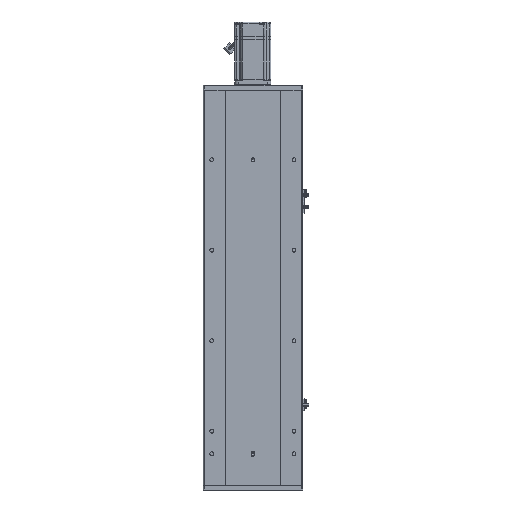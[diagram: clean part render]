
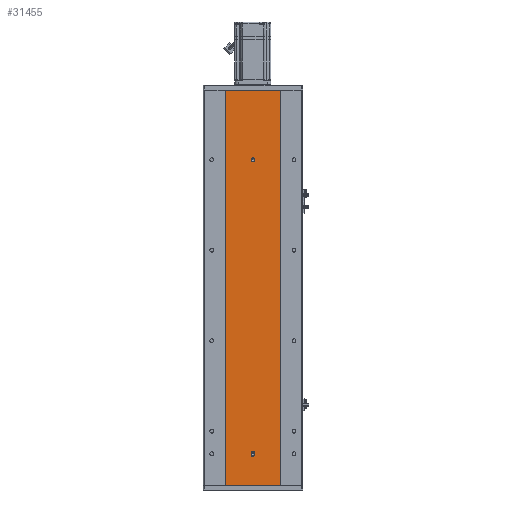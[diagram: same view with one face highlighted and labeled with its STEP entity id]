
A CAD part, front view. The second image highlights one B-rep face of the part: STEP entity #31455.
In plain terms, the highlighted planar face has unit normal (0, -1, 0).
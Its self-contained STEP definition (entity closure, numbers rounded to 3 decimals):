
#105 = VECTOR ( 'NONE', #5193, 1000. ) ;
#281 = VERTEX_POINT ( 'NONE', #16024 ) ;
#797 = DIRECTION ( 'NONE',  ( 0., -1., 0. ) ) ;
#799 = CARTESIAN_POINT ( 'NONE',  ( -60., 0., 0. ) ) ;
#1622 = EDGE_CURVE ( 'NONE', #281, #63293, #21500, .T. ) ;
#3006 = DIRECTION ( 'NONE',  ( 0., 0., -1. ) ) ;
#3552 = DIRECTION ( 'NONE',  ( 0., -1., 0. ) ) ;
#4554 = CIRCLE ( 'NONE', #16450, 4. ) ;
#4790 = DIRECTION ( 'NONE',  ( 0., 0., -1. ) ) ;
#5193 = DIRECTION ( 'NONE',  ( 0., 0., -1. ) ) ;
#6283 = EDGE_CURVE ( 'NONE', #281, #37520, #6490, .T. ) ;
#6490 = LINE ( 'NONE', #20448, #105 ) ;
#7676 = EDGE_CURVE ( 'NONE', #34087, #8968, #64105, .T. ) ;
#8111 = CARTESIAN_POINT ( 'NONE',  ( 60., 0., 874. ) ) ;
#8968 = VERTEX_POINT ( 'NONE', #53125 ) ;
#10186 = ORIENTED_EDGE ( 'NONE', *, *, #19722, .F. ) ;
#11270 = FACE_BOUND ( 'NONE', #40987, .T. ) ;
#11843 = VERTEX_POINT ( 'NONE', #42959 ) ;
#11977 = ORIENTED_EDGE ( 'NONE', *, *, #45012, .F. ) ;
#13112 = CARTESIAN_POINT ( 'NONE',  ( 0., 0., 720. ) ) ;
#13925 = EDGE_LOOP ( 'NONE', ( #40906, #35458, #57958, #25933 ) ) ;
#14191 = EDGE_CURVE ( 'NONE', #63293, #11843, #28915, .T. ) ;
#14245 = CARTESIAN_POINT ( 'NONE',  ( -4., 0., 71.5 ) ) ;
#14329 = CARTESIAN_POINT ( 'NONE',  ( -60., 0., 874. ) ) ;
#16024 = CARTESIAN_POINT ( 'NONE',  ( -60., 0., 874. ) ) ;
#16132 = DIRECTION ( 'NONE',  ( 0., -1., 0. ) ) ;
#16450 = AXIS2_PLACEMENT_3D ( 'NONE', #46853, #16132, #41482 ) ;
#17064 = EDGE_LOOP ( 'NONE', ( #29348, #10186 ) ) ;
#18302 = CARTESIAN_POINT ( 'NONE',  ( 0., 0., 724. ) ) ;
#19153 = CARTESIAN_POINT ( 'NONE',  ( 60., 0., 874. ) ) ;
#19722 = EDGE_CURVE ( 'NONE', #63039, #26471, #49439, .T. ) ;
#19934 = PLANE ( 'NONE',  #21320 ) ;
#20278 = DIRECTION ( 'NONE',  ( 0., -1., 0. ) ) ;
#20448 = CARTESIAN_POINT ( 'NONE',  ( -60., 0., 874. ) ) ;
#20513 = ORIENTED_EDGE ( 'NONE', *, *, #7676, .F. ) ;
#21050 = DIRECTION ( 'NONE',  ( 0., 0., 1. ) ) ;
#21320 = AXIS2_PLACEMENT_3D ( 'NONE', #14329, #30458, #55790 ) ;
#21369 = AXIS2_PLACEMENT_3D ( 'NONE', #65234, #3552, #34712 ) ;
#21500 = LINE ( 'NONE', #46241, #22261 ) ;
#21951 = DIRECTION ( 'NONE',  ( 0., 0., -1. ) ) ;
#22261 = VECTOR ( 'NONE', #25641, 1000. ) ;
#23217 = CIRCLE ( 'NONE', #31408, 4. ) ;
#25641 = DIRECTION ( 'NONE',  ( 1., 0., 0. ) ) ;
#25933 = ORIENTED_EDGE ( 'NONE', *, *, #6283, .T. ) ;
#26471 = VERTEX_POINT ( 'NONE', #62092 ) ;
#26524 = FACE_BOUND ( 'NONE', #17064, .T. ) ;
#26970 = EDGE_CURVE ( 'NONE', #37520, #11843, #53517, .T. ) ;
#27231 = DIRECTION ( 'NONE',  ( 1., 0., 0. ) ) ;
#27347 = FACE_OUTER_BOUND ( 'NONE', #13925, .T. ) ;
#28818 = CARTESIAN_POINT ( 'NONE',  ( -4., 0., 68.5 ) ) ;
#28915 = LINE ( 'NONE', #8111, #57788 ) ;
#29348 = ORIENTED_EDGE ( 'NONE', *, *, #53563, .F. ) ;
#30458 = DIRECTION ( 'NONE',  ( 0., 1., 0. ) ) ;
#31408 = AXIS2_PLACEMENT_3D ( 'NONE', #65596, #797, #31504 ) ;
#31455 = ADVANCED_FACE ( 'NONE', ( #26524, #11270, #27347 ), #19934, .F. ) ;
#31504 = DIRECTION ( 'NONE',  ( 0., 0., -1. ) ) ;
#33662 = DIRECTION ( 'NONE',  ( 0., 0., -1. ) ) ;
#33714 = DIRECTION ( 'NONE',  ( 0., -1., 0. ) ) ;
#34087 = VERTEX_POINT ( 'NONE', #45587 ) ;
#34293 = CARTESIAN_POINT ( 'NONE',  ( -4., 0., 71.5 ) ) ;
#34712 = DIRECTION ( 'NONE',  ( 0., 0., -1. ) ) ;
#35458 = ORIENTED_EDGE ( 'NONE', *, *, #14191, .F. ) ;
#35607 = AXIS2_PLACEMENT_3D ( 'NONE', #61061, #20278, #4790 ) ;
#36262 = CARTESIAN_POINT ( 'NONE',  ( -60., 0., 0. ) ) ;
#37520 = VERTEX_POINT ( 'NONE', #36262 ) ;
#37645 = AXIS2_PLACEMENT_3D ( 'NONE', #13112, #33714, #3006 ) ;
#37765 = VERTEX_POINT ( 'NONE', #14245 ) ;
#40420 = ORIENTED_EDGE ( 'NONE', *, *, #49135, .F. ) ;
#40906 = ORIENTED_EDGE ( 'NONE', *, *, #26970, .T. ) ;
#40987 = EDGE_LOOP ( 'NONE', ( #55671, #40420, #11977, #20513, #44341 ) ) ;
#41053 = VERTEX_POINT ( 'NONE', #28818 ) ;
#41482 = DIRECTION ( 'NONE',  ( 0., 0., -1. ) ) ;
#42093 = EDGE_CURVE ( 'NONE', #37765, #41053, #65813, .T. ) ;
#42959 = CARTESIAN_POINT ( 'NONE',  ( 60., 0., 0. ) ) ;
#44341 = ORIENTED_EDGE ( 'NONE', *, *, #47352, .F. ) ;
#45012 = EDGE_CURVE ( 'NONE', #8968, #56199, #56022, .T. ) ;
#45587 = CARTESIAN_POINT ( 'NONE',  ( 0., 0., 64.5 ) ) ;
#46241 = CARTESIAN_POINT ( 'NONE',  ( -60., 0., 874. ) ) ;
#46853 = CARTESIAN_POINT ( 'NONE',  ( 0., 0., 71.5 ) ) ;
#47352 = EDGE_CURVE ( 'NONE', #41053, #34087, #23217, .T. ) ;
#47902 = CIRCLE ( 'NONE', #37645, 4. ) ;
#49135 = EDGE_CURVE ( 'NONE', #56199, #37765, #4554, .T. ) ;
#49439 = CIRCLE ( 'NONE', #35607, 4. ) ;
#49478 = VECTOR ( 'NONE', #27231, 1000. ) ;
#51714 = CARTESIAN_POINT ( 'NONE',  ( 4., 0., 71.5 ) ) ;
#53125 = CARTESIAN_POINT ( 'NONE',  ( 4., 0., 68.5 ) ) ;
#53517 = LINE ( 'NONE', #799, #49478 ) ;
#53563 = EDGE_CURVE ( 'NONE', #26471, #63039, #47902, .T. ) ;
#55353 = VECTOR ( 'NONE', #21951, 1000. ) ;
#55671 = ORIENTED_EDGE ( 'NONE', *, *, #42093, .F. ) ;
#55790 = DIRECTION ( 'NONE',  ( 0., 0., 1. ) ) ;
#56022 = LINE ( 'NONE', #51714, #63255 ) ;
#56199 = VERTEX_POINT ( 'NONE', #64642 ) ;
#57788 = VECTOR ( 'NONE', #33662, 1000. ) ;
#57958 = ORIENTED_EDGE ( 'NONE', *, *, #1622, .F. ) ;
#61061 = CARTESIAN_POINT ( 'NONE',  ( 0., 0., 720. ) ) ;
#62092 = CARTESIAN_POINT ( 'NONE',  ( 0., 0., 716. ) ) ;
#63039 = VERTEX_POINT ( 'NONE', #18302 ) ;
#63255 = VECTOR ( 'NONE', #21050, 1000. ) ;
#63293 = VERTEX_POINT ( 'NONE', #19153 ) ;
#64105 = CIRCLE ( 'NONE', #21369, 4. ) ;
#64642 = CARTESIAN_POINT ( 'NONE',  ( 4., 0., 71.5 ) ) ;
#65234 = CARTESIAN_POINT ( 'NONE',  ( 0., 0., 68.5 ) ) ;
#65596 = CARTESIAN_POINT ( 'NONE',  ( 0., 0., 68.5 ) ) ;
#65813 = LINE ( 'NONE', #34293, #55353 ) ;
